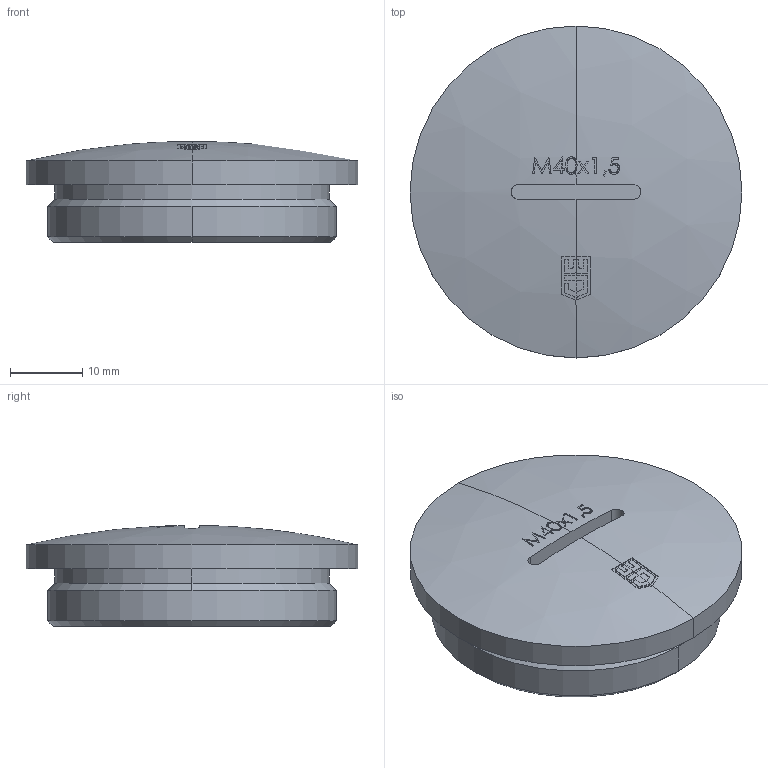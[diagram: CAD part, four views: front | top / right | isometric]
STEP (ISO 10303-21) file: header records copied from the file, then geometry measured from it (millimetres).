
FILE_DESCRIPTION (( 'STEP AP203' ), '1' );
FILE_NAME ('10.4015 PA.STEP', '2005-11-30T08:58:27', ( ' ' ), ( '' ), 'SwSTEP 2.0', 'SolidWorks 2005278', '' );
FILE_SCHEMA (( 'CONFIG_CONTROL_DESIGN' ));
Length unit declared in the file: millimetre
Products named in the file (1): 10.4015 PA
Bounding box: 46 x 46 x 13.99 mm (x, y, z)
Volume: 7819.8 mm3; surface area: 6213.3 mm2
Topology: 1 solids, 1 shells, 152 faces, 404 edges, 264 vertices
Faces by surface type: plane 96, sphere 22, bspline 16, cylinder 14, cone 4
Entity records: 6362 total; most frequent: CARTESIAN_POINT 2448, DIRECTION 840, ORIENTED_EDGE 808, EDGE_CURVE 404, AXIS2_PLACEMENT_3D 355, VERTEX_POINT 264, CIRCLE 218, EDGE_LOOP 162
